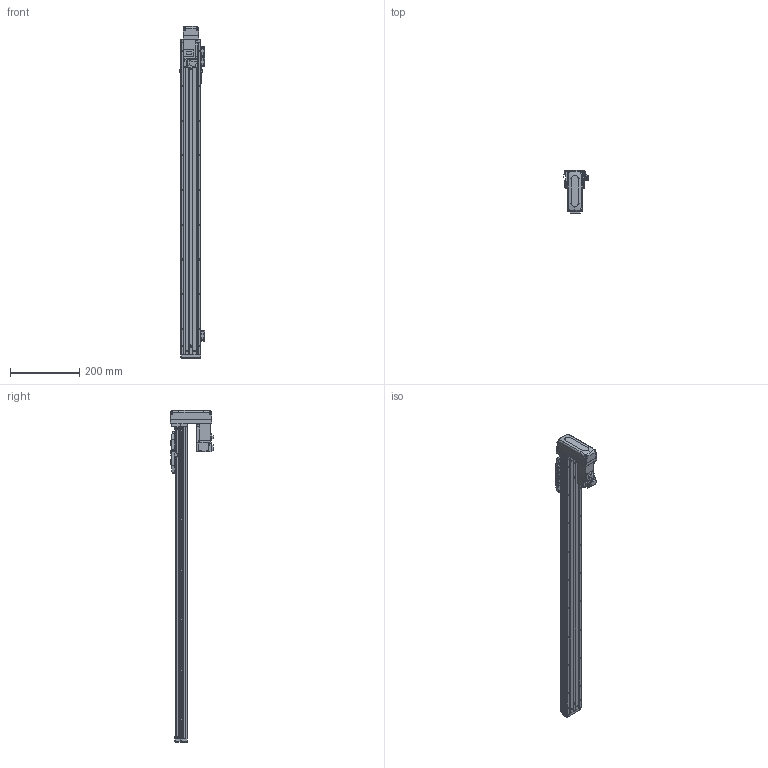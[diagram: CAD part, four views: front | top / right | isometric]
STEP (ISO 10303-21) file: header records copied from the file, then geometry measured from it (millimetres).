
FILE_DESCRIPTION (( 'STEP AP203' ), '1' );
FILE_NAME ('CTHA50-750-BM-M10-C4L.step', '2022-03-19T06:04:47', ( '微软用户' ), ( '微软中国' ), 'SwSTEP 2.0', 'SolidWorks 2020', '' );
FILE_SCHEMA (( 'CONFIG_CONTROL_DESIGN' ));
Length unit declared in the file: millimetre
Products named in the file (20): KTHA50-004; GBT 70.1-M4×12; GBT 70.3-M3℅6; KTHA50-005; CTHA60-016; CTHA50-015-2_CTHA60-015-2; GB¨uT 70.2-M3¡Á6_M3¡Á6; CTHA60-021; CTHA60-033; EE_SX911P_R; HG-KR13（三菱）; GBT 70.1-M3×15; GBT77-2000 M3×3; CTHA50-002; CTHA50-750-BM-M10-C4L; GBT 70.1-M3℅6; CTHA50-030; KTHA50-001_900; CTHA60-017; CTHA50-031
Assembly tree (60 placements, depth 2):
  CTHA50-750-BM-M10-C4L
    KTHA50-001_900
    KTHA50-004
    KTHA50-005
    GB¨uT 70.2-M3¡Á6_M3¡Á6  x10
    EE_SX911P_R  x3
    GBT77-2000 M3×3  x6
    GBT 70.1-M3℅6  x6
    CTHA60-017  x3
    GBT 70.1-M4×12  x10
    CTHA60-016  x2
    CTHA60-021  x2
    HG-KR13（三菱）
    CTHA50-002
    CTHA50-030  x2
    CTHA50-031
    GBT 70.3-M3℅6  x4
    CTHA50-015-2_CTHA60-015-2
    CTHA60-033
    GBT 70.1-M3×15  x4
Bounding box: 74.12 x 125.3 x 957 mm (x, y, z)
Volume: 1746893.4 mm3; surface area: 443387.4 mm2
Topology: 62 solids, 62 shells, 2593 faces, 6191 edges, 3798 vertices
Faces by surface type: plane 1470, cylinder 606, cone 359, torus 108, bspline 26, sphere 24
Entity records: 45269 total; most frequent: CARTESIAN_POINT 8331, DIRECTION 7085, ORIENTED_EDGE 6890, EDGE_CURVE 3445, LINE 2421, VECTOR 2421, AXIS2_PLACEMENT_3D 2332, VERTEX_POINT 2172
